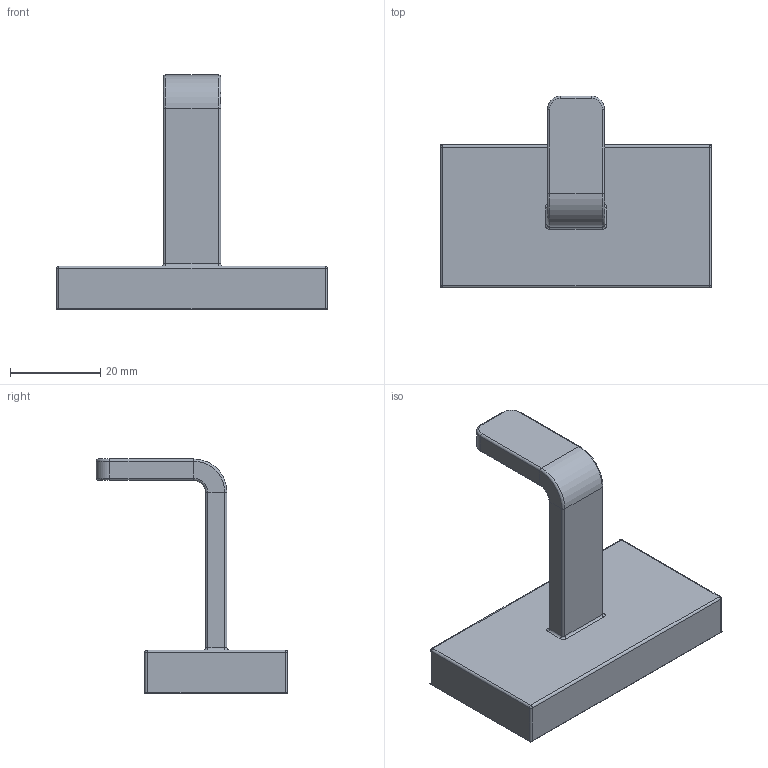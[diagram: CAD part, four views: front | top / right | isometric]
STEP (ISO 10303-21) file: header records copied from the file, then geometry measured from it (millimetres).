
FILE_DESCRIPTION (( 'STEP AP203' ), '1' );
FILE_NAME ('12133110.STEP', '2022-08-02T16:09:55', ( '' ), ( '' ), 'SwSTEP 2.0', 'SolidWorks 2018', '' );
FILE_SCHEMA (( 'CONFIG_CONTROL_DESIGN' ));
Length unit declared in the file: millimetre
Products named in the file (1): 12133110
Bounding box: 60 x 42.45 x 51.88 mm (x, y, z)
Surface area: 7663.1 mm2 (no closed solid volume)
Topology: 0 solids, 2 shells, 63 faces, 140 edges, 76 vertices
Faces by surface type: cylinder 26, plane 21, torus 12, sphere 4
Entity records: 1748 total; most frequent: DIRECTION 328, CARTESIAN_POINT 276, ORIENTED_EDGE 260, EDGE_CURVE 136, AXIS2_PLACEMENT_3D 128, VERTEX_POINT 76, VECTOR 72, LINE 72
